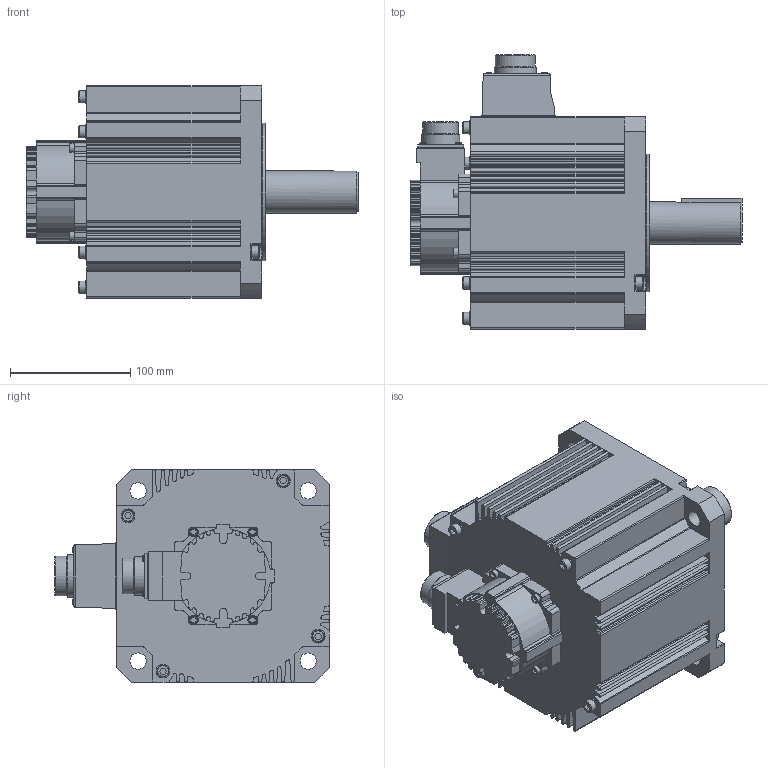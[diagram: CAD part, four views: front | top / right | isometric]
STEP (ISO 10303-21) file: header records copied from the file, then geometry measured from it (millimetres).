
FILE_DESCRIPTION(/* description */ ('STEP AP203'),/* implementation_level */ '2;1');
FILE_NAME(/* name */ 'MHMF402L1G6 2JL10',/* time_stamp */ '2023-07-08T15:23:00+02:00',/* author */ ('License CC BY-ND 4.0'),/* organization */ ('CADENAS'),/* preprocessor_version */ 'ST-DEVELOPER v19.3',/* originating_system */ 'PARTsolutions',/* authorisation */ ' ');
FILE_SCHEMA (('CONFIG_CONTROL_DESIGN'));
Length unit declared in the file: millimetre
Products named in the file (2): MHMF402L1G6 2JL10; MHMF402L1G6 _body
Assembly tree (1 placements, depth 2):
  MHMF402L1G6 2JL10
    MHMF402L1G6 _body
Bounding box: 276 x 228.3 x 176.6 mm (x, y, z)
Volume: 4531738.1 mm3; surface area: 246531.4 mm2
Topology: 1 solids, 1 shells, 710 faces, 1946 edges, 1284 vertices
Faces by surface type: cylinder 356, plane 309, cone 24, torus 13, sphere 8
Full cylindrical faces by diameter (mm): 2.459 x1, 7 x4, 8 x4, 10 x8, 11.5 x8, 13.5 x4, 29.75 x1, 31.75 x1, 33 x1, 35 x2, 52 x1, 58 x1, 67 x1, 105 x1, 114.3 x1
Entity records: 22245 total; most frequent: CARTESIAN_POINT 3975, DIRECTION 3961, ORIENTED_EDGE 3688, EDGE_CURVE 1844, AXIS2_PLACEMENT_3D 1444, VERTEX_POINT 1261, LINE 1073, VECTOR 1073
